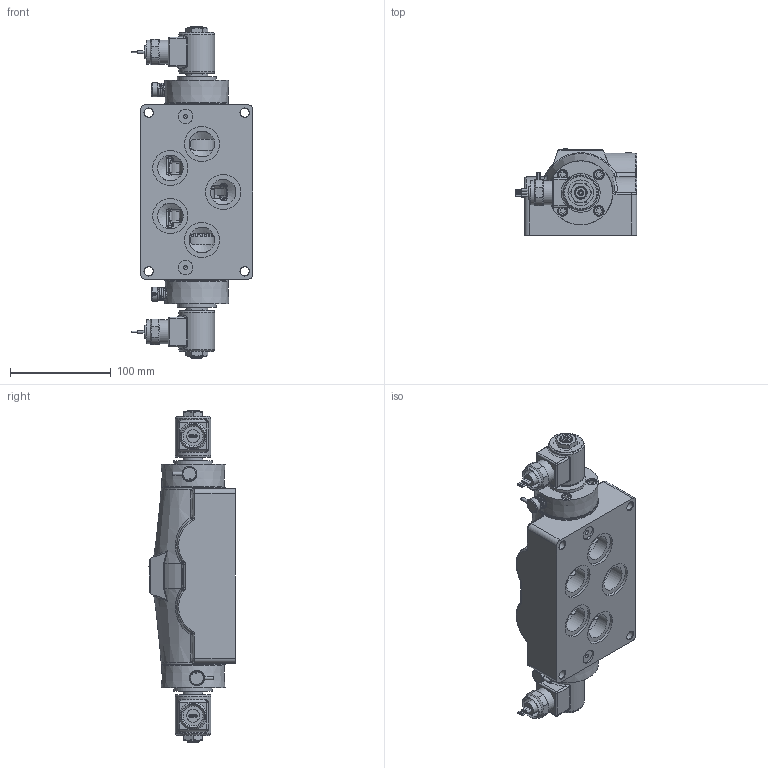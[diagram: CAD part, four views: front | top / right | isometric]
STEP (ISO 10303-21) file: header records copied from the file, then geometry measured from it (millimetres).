
FILE_DESCRIPTION(/* description */ (''),/* implementation_level */ '2;1');
FILE_NAME(/* name */ 'D:\Website Files\stp\Valves\Classic\SS\SS8PMON.stp',/* time_stamp */ '2016-02-06T10:35:55-05:00',/* author */ ('RMcKenna'),/* organization */ (''),/* preprocessor_version */ 'ST-DEVELOPER v15.6',/* originating_system */ 'Autodesk Inventor 2015',/* authorisation */ '');
FILE_SCHEMA (('AUTOMOTIVE_DESIGN { 1 0 10303 214 3 1 1 }'));
Products named in the file (1): Part51
Bounding box: 120.56 x 86.27 x 329.41 mm (x, y, z)
Volume: 1290977.7 mm3; surface area: 234656.1 mm2
Topology: 3 solids, 27 shells, 2134 faces, 5003 edges, 3066 vertices
Faces by surface type: plane 758, cylinder 489, cone 393, bspline 240, torus 183, sphere 71
Full cylindrical faces by diameter (mm): 1.041 x2, 1.321 x4, 1.346 x6, 2.07 x1, 2.261 x2, 2.35 x2, 2.381 x2, 2.718 x4, 2.778 x2, 3.048 x2, 3.175 x12, 3.302 x2, 3.962 x6, 4.978 x8, 5.639 x2, 6.35 x8, 6.629 x4, 6.934 x2, 7.144 x8, 8.712 x4, 9.144 x2, 9.462 x4, 9.474 x8, 9.525 x10, 9.83 x2, 11.43 x2, 11.836 x4, 12.598 x2, 12.7 x4, 13.106 x2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
Entity records: 83549 total; most frequent: CARTESIAN_POINT 37053, DIRECTION 8941, ORIENTED_EDGE 8868, EDGE_CURVE 4430, AXIS2_PLACEMENT_3D 3706, VERTEX_POINT 2923, EDGE_LOOP 2779, FACE_OUTER_BOUND 2133
